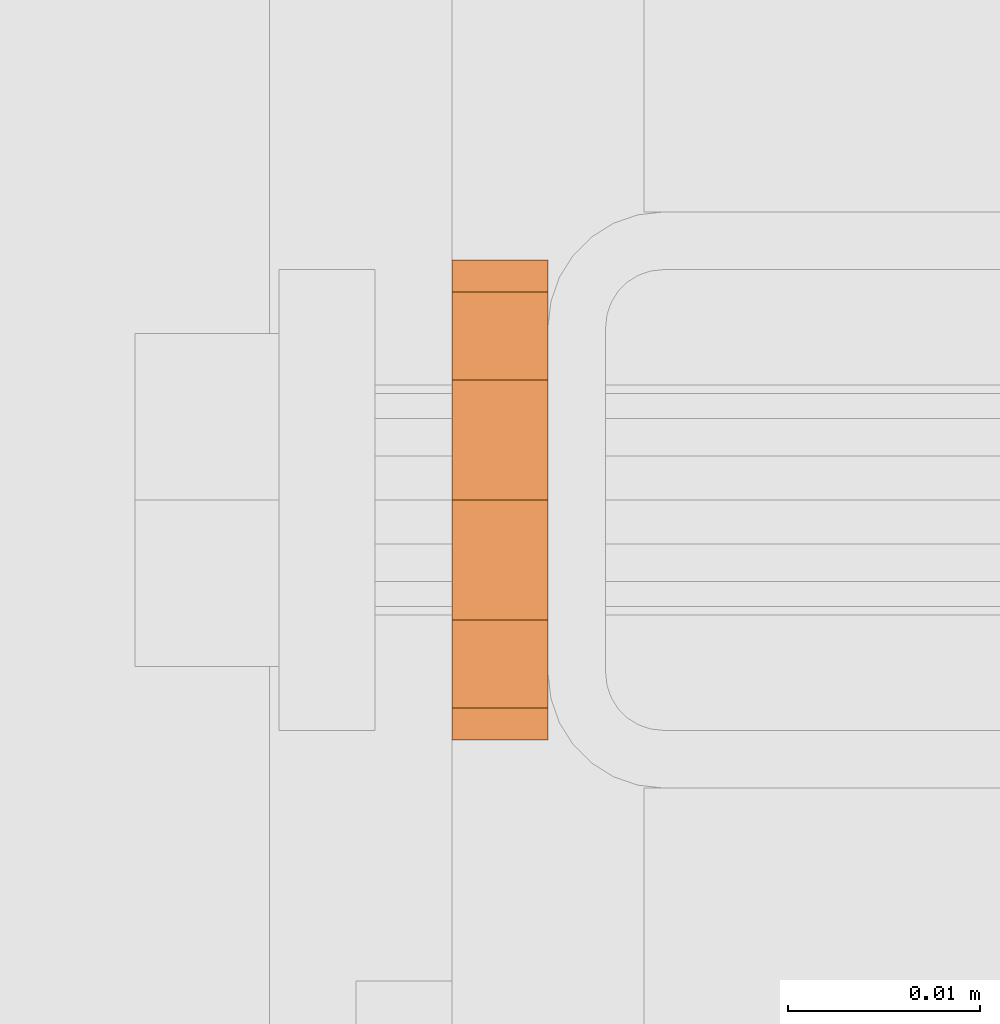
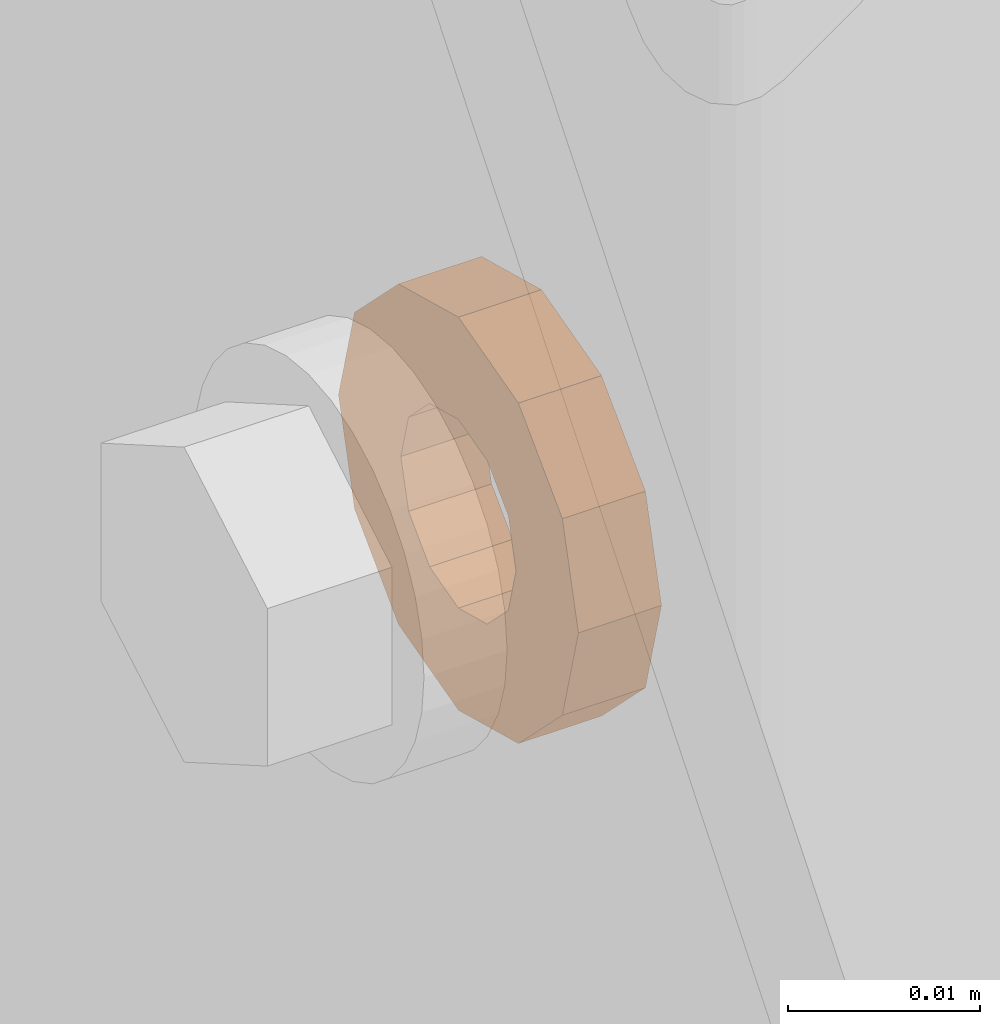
# One storey, part 124 of 162: 1 proxy.
"""IFC2X3 building model written with IfcOpenShell, lengths in millimetres."""

from ifc_helpers import new_model, entity, si_unit, converted_unit, origin_with_axes, place, context, project, spatial, faceted_brep, material, element, save


model = new_model("IFC2X3")

# Units and contexts
model_context = context("Model", 3, precision=1e-09, world=origin_with_axes())
ifc_project = project(units=[si_unit("LENGTHUNIT", "METRE", prefix="MILLI"), si_unit("AREAUNIT", "SQUARE_METRE"), si_unit("VOLUMEUNIT", "CUBIC_METRE"), converted_unit("PLANEANGLEUNIT", "DEGREE", entity("IfcPlaneAngleMeasure", 0.01745329), si_unit("PLANEANGLEUNIT", "RADIAN"), dimensions=[0, 0, 0, 0, 0, 0, 0])], contexts=[model_context])

# Site, building, storey
site_placement = place(None, origin_with_axes())
site = spatial("IfcSite", under=ifc_project, at=site_placement, Name="Hermannstra?e 1a, 60318 Frankfurt", CompositionType="ELEMENT")
building_placement = place(site_placement, origin_with_axes())
building = spatial("IfcBuilding", under=site, at=building_placement, Name="Struktur 1", CompositionType="ELEMENT")
storey_placement = place(building_placement, origin_with_axes())
storey = spatial("IfcBuildingStorey", under=building, at=storey_placement, Name="Default Storey", CompositionType="ELEMENT", Elevation=0.0)

# Proxy
ifc_material = material(Name="Kein")
proxy_placement = place(None, origin_with_axes())
element("IfcBuildingElementProxy", 1, at=proxy_placement, inside=storey, material=ifc_material, ObjectType="-", context=model_context, shape_type="Brep", body=[
    faceted_brep([(5828.30936482, 1599.784056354, 3888.75), (5828.30936482, 1604.359373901, 3884.174682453), (5828.30936482, 1610.609373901, 3882.5), (5828.30936482, 1616.859373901, 3884.174682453), (5828.30936482, 1621.434691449, 3888.75), (5828.30936482, 1623.109373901, 3895.0), (5828.30936482, 1621.434691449, 3901.25), (5828.30936482, 1616.859373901, 3905.825317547), (5828.30936482, 1610.609373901, 3907.5), (5828.30936482, 1604.359373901, 3905.825317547), (5828.30936482, 1599.784056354, 3901.25), (5828.30936482, 1598.109373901, 3895.0), (5828.30936482, 1610.609373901, 3889.0), (5828.30936482, 1607.609373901, 3889.803847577), (5828.30936482, 1605.413221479, 3892.0), (5828.30936482, 1604.609373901, 3895.0), (5828.30936482, 1605.413221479, 3898.0), (5828.30936482, 1607.609373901, 3900.196152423), (5828.30936482, 1610.609373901, 3901.0), (5828.30936482, 1613.609373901, 3900.196152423), (5828.30936482, 1615.805526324, 3898.0), (5828.30936482, 1616.609373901, 3895.0), (5828.30936482, 1615.805526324, 3892.0), (5828.30936482, 1613.609373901, 3889.803847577), (5823.30936482, 1599.784056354, 3888.75), (5823.30936482, 1604.359373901, 3884.174682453), (5823.30936482, 1598.109373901, 3895.0), (5823.30936482, 1599.784056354, 3901.25), (5823.30936482, 1604.359373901, 3905.825317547), (5823.30936482, 1610.609373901, 3907.5), (5823.30936482, 1616.859373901, 3905.825317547), (5823.30936482, 1621.434691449, 3901.25), (5823.30936482, 1623.109373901, 3895.0), (5823.30936482, 1621.434691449, 3888.75), (5823.30936482, 1616.859373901, 3884.174682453), (5823.30936482, 1610.609373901, 3882.5), (5823.30936482, 1605.413221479, 3898.0), (5823.30936482, 1604.609373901, 3895.0), (5823.30936482, 1605.413221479, 3892.0), (5823.30936482, 1607.609373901, 3889.803847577), (5823.30936482, 1610.609373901, 3889.0), (5823.30936482, 1613.609373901, 3889.803847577), (5823.30936482, 1615.805526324, 3892.0), (5823.30936482, 1616.609373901, 3895.0), (5823.30936482, 1615.805526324, 3898.0), (5823.30936482, 1613.609373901, 3900.196152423), (5823.30936482, 1610.609373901, 3901.0), (5823.30936482, 1607.609373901, 3900.196152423)], [[[0, 1, 2, 3, 4, 5, 6, 7, 8, 9, 10, 11], [12, 13, 14, 15, 16, 17, 18, 19, 20, 21, 22, 23]], [[0, 24, 25, 1]], [[24, 26, 27, 28, 29, 30, 31, 32, 33, 34, 35, 25], [36, 37, 38, 39, 40, 41, 42, 43, 44, 45, 46, 47]], [[38, 14, 13, 39]], [[24, 0, 11, 26]], [[14, 38, 37, 15]], [[39, 13, 12, 40]], [[1, 25, 35, 2]], [[26, 11, 10, 27]], [[15, 37, 36, 16]], [[40, 12, 23, 41]], [[2, 35, 34, 3]], [[27, 10, 9, 28]], [[16, 36, 47, 17]], [[22, 42, 41, 23]], [[3, 34, 33, 4]], [[42, 22, 21, 43]], [[28, 9, 8, 29]], [[17, 47, 46, 18]], [[20, 44, 43, 21]], [[4, 33, 32, 5]], [[45, 19, 18, 46]], [[44, 20, 19, 45]], [[29, 8, 7, 30]], [[5, 32, 31, 6]], [[30, 7, 6, 31]]]),
])

save(model, "model.ifc")
